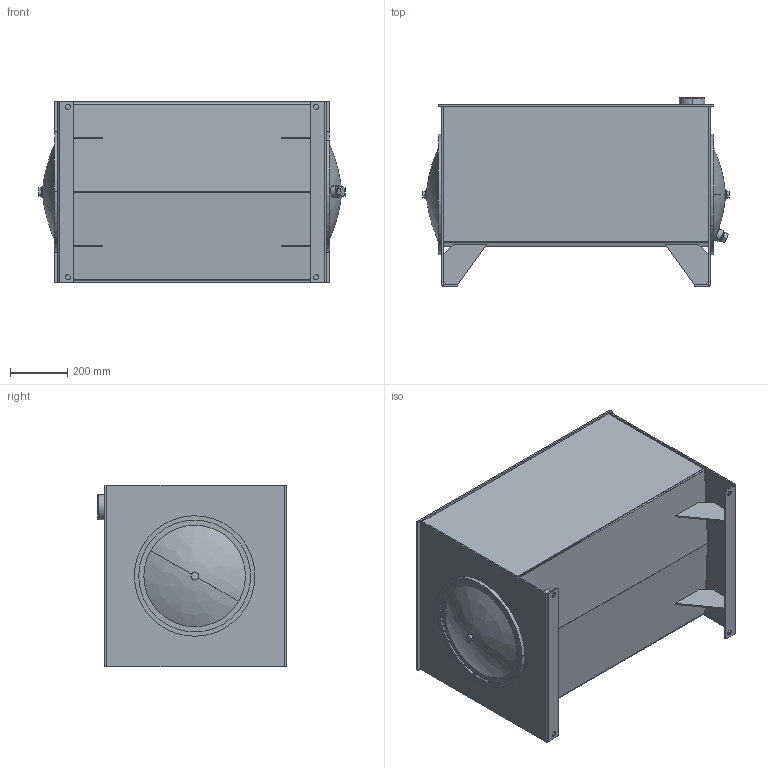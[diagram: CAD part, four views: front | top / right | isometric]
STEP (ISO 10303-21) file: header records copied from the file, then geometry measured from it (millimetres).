
FILE_DESCRIPTION (( 'STEP AP214' ), '1' );
FILE_NAME ('T2-60.STEP', '2016-01-28T13:05:47', ( 'User' ), ( '' ), 'SwSTEP 2.0', 'SolidWorks 2013', '' );
FILE_SCHEMA (( 'AUTOMOTIVE_DESIGN' ));
Length unit declared in the file: inch
Products named in the file (17): T2-60-EA; T2-60-LD; T2-60; TL-EC-16; 16.00 END COVER; TL-ECD-16; DRAIN; 16.00 END COVER WITH DRAIN; 0.625 - 11 BAFFLE NUT; 0.625 - 11 HEX BOLT; CRUSH WASHER; 16.00 GASKET; FILLER RISER; T2-60-GST; T2-60-BFL; T2-60-BDY; T2-60-EB
Assembly tree (23 placements, depth 3):
  T2-60
    T2-60-LD
    T2-60-EA
    T2-60-EB
    T2-60-BDY
    T2-60-BFL
    T2-60-GST  x4
    FILLER RISER
    TL-ECD-16
      16.00 GASKET
      CRUSH WASHER
      0.625 - 11 HEX BOLT
      0.625 - 11 BAFFLE NUT
      16.00 END COVER WITH DRAIN
      DRAIN
    TL-EC-16
      16.00 END COVER
      16.00 GASKET
      CRUSH WASHER
      0.625 - 11 HEX BOLT
      0.625 - 11 BAFFLE NUT
Bounding box: 1074.4 x 660.4 x 635 mm (x, y, z)
Volume: 15343589.4 mm3; surface area: 7319389.9 mm2
Topology: 22 solids, 22 shells, 294 faces, 676 edges, 434 vertices
Faces by surface type: plane 165, cylinder 109, cone 10, bspline 8, torus 2
Entity records: 8553 total; most frequent: CARTESIAN_POINT 1469, DIRECTION 1242, ORIENTED_EDGE 1076, EDGE_CURVE 538, AXIS2_PLACEMENT_3D 465, VERTEX_POINT 342, LINE 312, VECTOR 312
